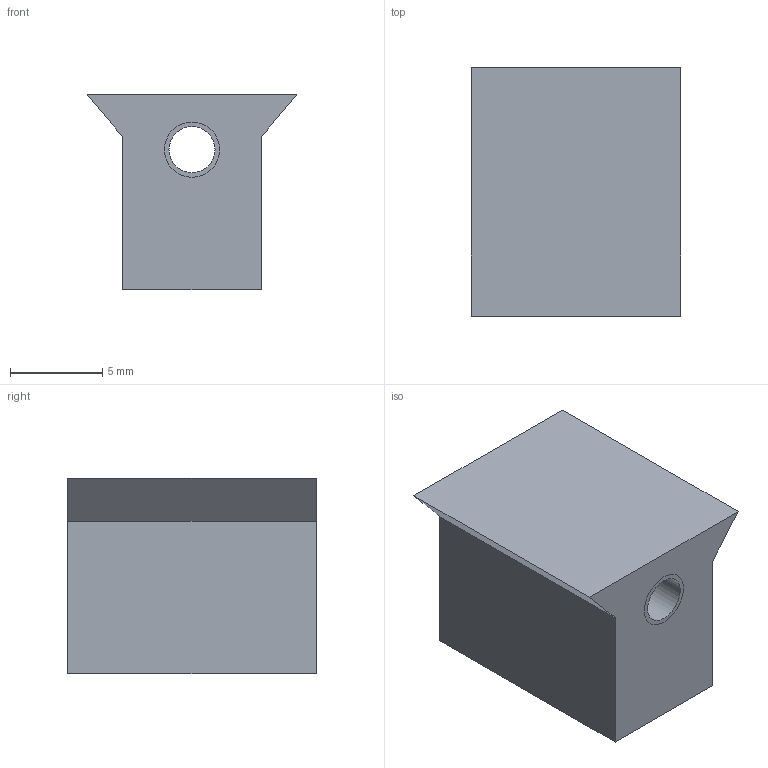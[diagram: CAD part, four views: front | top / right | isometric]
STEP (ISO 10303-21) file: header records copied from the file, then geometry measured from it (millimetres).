
FILE_DESCRIPTION((''),'2;1');
FILE_NAME('ART3TENSIONERBODY_V-1','2022-08-24T09:26:14',('domen.bizjak'),('Audax d.o.o.'),'CREO PARAMETRIC BY PTC INC, 2021184','CREO PARAMETRIC BY PTC INC, 2021184','');
FILE_SCHEMA(('AP242_MANAGED_MODEL_BASED_3D_ENGINEERING_MIM_LF { 1 0 10303 442 1 1 4 }'));
Length unit declared in the file: millimetre
Products named in the file (1): ART3TENSIONERBODY_V-1
Bounding box: 11.4 x 13.5 x 10.6 mm (x, y, z)
Volume: 957.5 mm3; surface area: 1103.8 mm2
Topology: 1 solids, 3 shells, 22 faces, 67 edges, 56 vertices
Faces by surface type: cylinder 12, plane 10
Entity records: 1779 total; most frequent: COLOUR_RGB 320, CARTESIAN_POINT 211, DIRECTION 147, ORIENTED_EDGE 100, PRESENTATION_STYLE_ASSIGNMENT 74, STYLED_ITEM 74, CURVE_STYLE 68, EDGE_CURVE 54
